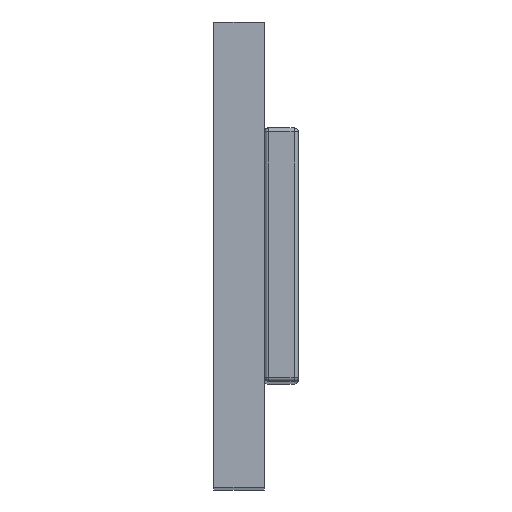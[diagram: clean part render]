
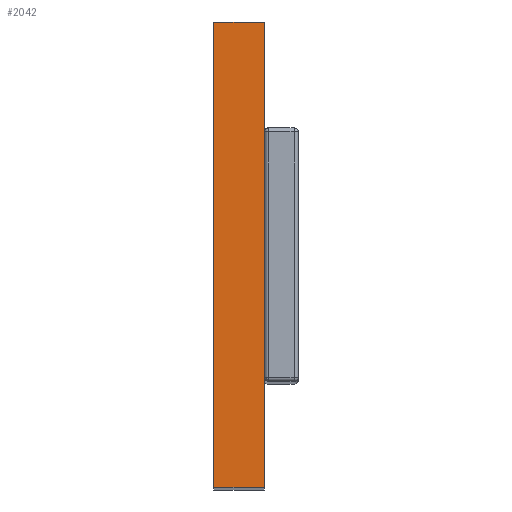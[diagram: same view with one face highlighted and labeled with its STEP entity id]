
A CAD part, top view. The second image highlights one B-rep face of the part: STEP entity #2042.
In plain terms, the highlighted planar face has unit normal (0, 0, 1).
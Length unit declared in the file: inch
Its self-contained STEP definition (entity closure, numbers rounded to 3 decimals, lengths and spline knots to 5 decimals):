
#78 = VECTOR ( 'NONE', #4548, 39.37008 ) ;
#297 = DIRECTION ( 'NONE',  ( 0., -1., 0. ) ) ;
#490 = CARTESIAN_POINT ( 'NONE',  ( 0., 2.16535, 7.55906 ) ) ;
#497 = AXIS2_PLACEMENT_3D ( 'NONE', #3089, #4670, #812 ) ;
#509 = VECTOR ( 'NONE', #297, 39.37008 ) ;
#789 = ORIENTED_EDGE ( 'NONE', *, *, #2657, .T. ) ;
#812 = DIRECTION ( 'NONE',  ( -1., 0., 0. ) ) ;
#1129 = VERTEX_POINT ( 'NONE', #3997 ) ;
#1218 = ORIENTED_EDGE ( 'NONE', *, *, #2991, .T. ) ;
#1399 = CARTESIAN_POINT ( 'NONE',  ( 0.23622, 2.16535, 7.55906 ) ) ;
#1535 = VECTOR ( 'NONE', #3241, 39.37008 ) ;
#2042 = ADVANCED_FACE ( 'NONE', ( #3406 ), #2215, .F. ) ;
#2083 = EDGE_LOOP ( 'NONE', ( #789, #4611, #2955, #1218 ) ) ;
#2116 = VERTEX_POINT ( 'NONE', #4316 ) ;
#2215 = PLANE ( 'NONE',  #497 ) ;
#2241 = CARTESIAN_POINT ( 'NONE',  ( 0.23622, 0., 7.55906 ) ) ;
#2331 = LINE ( 'NONE', #2241, #509 ) ;
#2462 = CARTESIAN_POINT ( 'NONE',  ( 0., 0., 7.55906 ) ) ;
#2529 = EDGE_CURVE ( 'NONE', #4642, #1129, #2331, .T. ) ;
#2558 = LINE ( 'NONE', #2462, #1535 ) ;
#2626 = EDGE_CURVE ( 'NONE', #3584, #4642, #4117, .T. ) ;
#2657 = EDGE_CURVE ( 'NONE', #2116, #1129, #2558, .T. ) ;
#2822 = DIRECTION ( 'NONE',  ( 1., 0., 0. ) ) ;
#2955 = ORIENTED_EDGE ( 'NONE', *, *, #2626, .F. ) ;
#2991 = EDGE_CURVE ( 'NONE', #3584, #2116, #3559, .T. ) ;
#3054 = VECTOR ( 'NONE', #2822, 39.37008 ) ;
#3061 = CARTESIAN_POINT ( 'NONE',  ( 0., 2.16535, 7.55906 ) ) ;
#3089 = CARTESIAN_POINT ( 'NONE',  ( 0., 0., 7.55906 ) ) ;
#3241 = DIRECTION ( 'NONE',  ( 1., 0., 0. ) ) ;
#3380 = CARTESIAN_POINT ( 'NONE',  ( 0., 0., 7.55906 ) ) ;
#3406 = FACE_OUTER_BOUND ( 'NONE', #2083, .T. ) ;
#3559 = LINE ( 'NONE', #3380, #78 ) ;
#3584 = VERTEX_POINT ( 'NONE', #3061 ) ;
#3997 = CARTESIAN_POINT ( 'NONE',  ( 0.23622, 0., 7.55906 ) ) ;
#4117 = LINE ( 'NONE', #490, #3054 ) ;
#4316 = CARTESIAN_POINT ( 'NONE',  ( 0., 0., 7.55906 ) ) ;
#4548 = DIRECTION ( 'NONE',  ( 0., -1., 0. ) ) ;
#4611 = ORIENTED_EDGE ( 'NONE', *, *, #2529, .F. ) ;
#4642 = VERTEX_POINT ( 'NONE', #1399 ) ;
#4670 = DIRECTION ( 'NONE',  ( 0., 0., -1. ) ) ;
